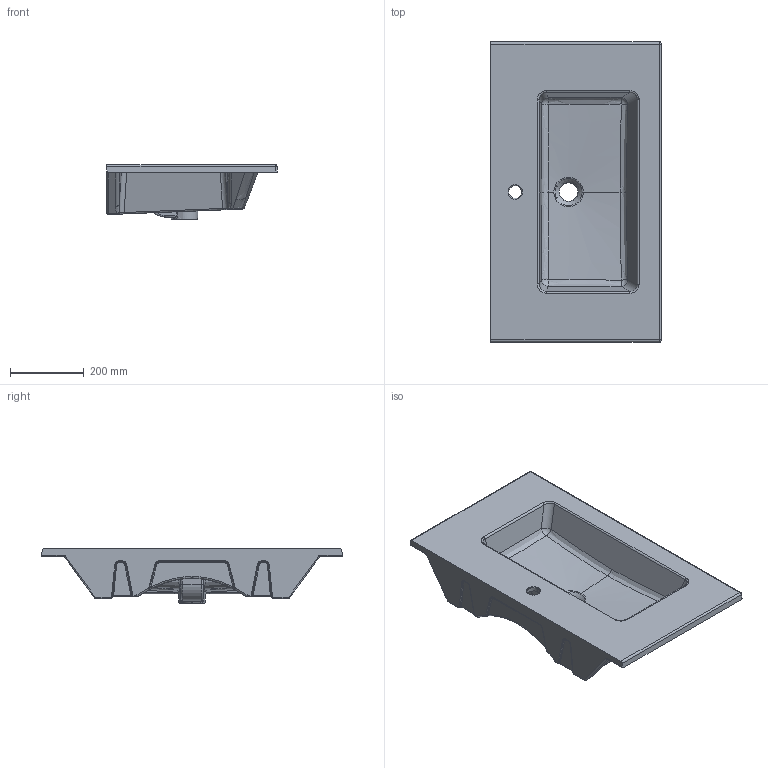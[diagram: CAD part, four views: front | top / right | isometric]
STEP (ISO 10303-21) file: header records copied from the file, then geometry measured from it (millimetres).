
FILE_DESCRIPTION(('CATIA V5 STEP Exchange'),'2;1');
FILE_NAME('C:\Users\Luca\Documents\CAD GALASSIA\Archivio sito web\7223\3D ART 7223 EDEN 81X46.stp','2023-08-30T08:06:37+00:00',('none'),('none'),'CATIA Version 5 Release 19 SP 5 (IN-10)','CATIA V5 STEP AP214','none');
FILE_SCHEMA(('AUTOMOTIVE_DESIGN { 1 0 10303 214 1 1 1 1 }'));
Products named in the file (1): art 7223
Bounding box: 460.32 x 813.5 x 147.6 mm (x, y, z)
Volume: 12192111.5 mm3; surface area: 1161229.3 mm2
Topology: 1 solids, 1 shells, 453 faces, 1078 edges, 593 vertices
Faces by surface type: bspline 288, cylinder 94, torus 24, plane 22, sphere 19, cone 6
Entity records: 36812 total; most frequent: CARTESIAN_POINT 29235, ORIENTED_EDGE 2088, EDGE_CURVE 1044, B_SPLINE_CURVE_WITH_KNOTS 774, VERTEX_POINT 593, DIRECTION 562, EDGE_LOOP 457, ADVANCED_FACE 453
